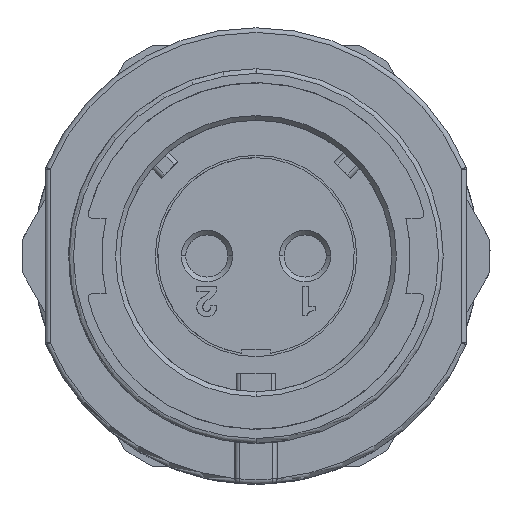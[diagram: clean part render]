
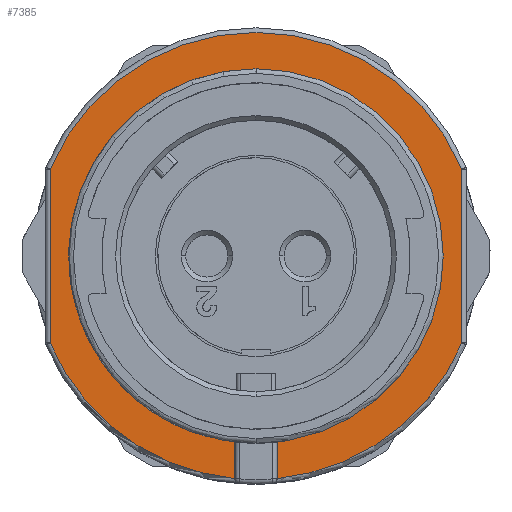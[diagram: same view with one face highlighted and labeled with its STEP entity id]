
A CAD part, left-side view. The second image highlights one B-rep face of the part: STEP entity #7385.
In plain terms, the highlighted planar face has unit normal (-1, 0, 0).
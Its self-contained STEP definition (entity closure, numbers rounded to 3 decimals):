
#874=DIRECTION('',(0.,0.,-1.));
#875=VECTOR('',#874,0.407);
#876=CARTESIAN_POINT('',(-6.3,7.156,-17.155));
#877=LINE('',#876,#875);
#1017=DIRECTION('',(0.,0.,1.));
#1018=VECTOR('',#1017,0.407);
#1019=CARTESIAN_POINT('',(-6.3,8.956,
-17.563));
#1020=LINE('',#1019,#1018);
#1189=DIRECTION('',(0.,0.,1.));
#1190=VECTOR('',#1189,7.42);
#1191=CARTESIAN_POINT('',(-6.3,-0.744,
-11.765));
#1192=LINE('',#1191,#1190);
#1208=CARTESIAN_POINT('',(-6.3,8.056,
-8.055));
#1209=DIRECTION('',(1.,0.,0.));
#1210=DIRECTION('',(0.,0.921,0.388));
#1211=AXIS2_PLACEMENT_3D('',#1208,#1209,#1210);
#1213=CARTESIAN_POINT('',(-6.3,8.056,
-8.055));
#1214=DIRECTION('',(1.,0.,0.));
#1215=DIRECTION('',(0.,-0.921,-0.388));
#1216=AXIS2_PLACEMENT_3D('',#1213,#1214,#1215);
#1218=DIRECTION('',(0.,1.,0.));
#1219=VECTOR('',#1218,1.8);
#1220=CARTESIAN_POINT('',(-6.3,7.156,
-17.155));
#1221=LINE('',#1220,#1219);
#1222=CARTESIAN_POINT('',(-6.3,8.056,
-8.055));
#1223=DIRECTION('',(1.,0.,0.));
#1224=DIRECTION('',(0.,0.094,-0.996));
#1225=AXIS2_PLACEMENT_3D('',#1222,#1223,#1224);
#1227=CARTESIAN_POINT('',(-6.3,8.056,
-8.055));
#1228=DIRECTION('',(-1.,0.,0.));
#1229=DIRECTION('',(0.,0.,1.));
#1230=AXIS2_PLACEMENT_3D('',#1227,#1228,#1229);
#1232=CARTESIAN_POINT('',(-6.3,8.056,
-8.055));
#1233=DIRECTION('',(-1.,0.,0.));
#1234=DIRECTION('',(0.,0.113,-0.994));
#1235=AXIS2_PLACEMENT_3D('',#1232,#1233,#1234);
#1237=CARTESIAN_POINT('',(-6.3,8.056,
-8.055));
#1238=DIRECTION('',(-1.,0.,0.));
#1239=DIRECTION('',(0.,0.,-1.));
#1240=AXIS2_PLACEMENT_3D('',#1237,#1238,#1239);
#1282=DIRECTION('',(0.,0.,-1.));
#1283=VECTOR('',#1282,7.42);
#1284=CARTESIAN_POINT('',(-6.3,16.856,
-4.346));
#1285=LINE('',#1284,#1283);
#5264=CARTESIAN_POINT('',(-6.3,16.856,
-11.765));
#5265=VERTEX_POINT('',#5264);
#5266=CARTESIAN_POINT('',(-6.3,8.956,
-17.563));
#5267=VERTEX_POINT('',#5266);
#5269=CARTESIAN_POINT('',(-6.3,16.856,
-4.346));
#5270=CARTESIAN_POINT('',(-6.3,-0.744,
-4.346));
#5271=VERTEX_POINT('',#5269);
#5272=VERTEX_POINT('',#5270);
#5273=CARTESIAN_POINT('',(-6.3,-0.744,
-11.765));
#5274=VERTEX_POINT('',#5273);
#5275=CARTESIAN_POINT('',(-6.3,7.156,
-17.563));
#5276=VERTEX_POINT('',#5275);
#5277=CARTESIAN_POINT('',(-6.3,7.156,
-17.155));
#5278=VERTEX_POINT('',#5277);
#5279=CARTESIAN_POINT('',(-6.3,8.956,
-17.155));
#5280=VERTEX_POINT('',#5279);
#5281=CARTESIAN_POINT('',(-6.3,8.056,
-0.055));
#5282=CARTESIAN_POINT('',(-6.3,8.956,
-16.005));
#5283=VERTEX_POINT('',#5281);
#5284=VERTEX_POINT('',#5282);
#5285=CARTESIAN_POINT('',(-6.3,8.056,
-16.055));
#5286=VERTEX_POINT('',#5285);
#7362=CARTESIAN_POINT('',(-6.3,8.056,
-8.055));
#7363=DIRECTION('',(-1.,0.,0.));
#7364=DIRECTION('',(0.,0.,1.));
#7365=AXIS2_PLACEMENT_3D('',#7362,#7363,#7364);
#7366=PLANE('',#7365);
#7368=ORIENTED_EDGE('',*,*,#7367,.T.);
#7369=ORIENTED_EDGE('',*,*,#7344,.F.);
#7370=ORIENTED_EDGE('',*,*,#6947,.T.);
#7371=ORIENTED_EDGE('',*,*,#6888,.F.);
#7373=ORIENTED_EDGE('',*,*,#7372,.T.);
#7374=ORIENTED_EDGE('',*,*,#7063,.F.);
#7375=ORIENTED_EDGE('',*,*,#7084,.T.);
#7377=ORIENTED_EDGE('',*,*,#7376,.F.);
#7378=EDGE_LOOP('',(#7368,#7369,#7370,#7371,#7373,#7374,#7375,#7377));
#7379=FACE_OUTER_BOUND('',#7378,.F.);
#7380=ORIENTED_EDGE('',*,*,#7047,.T.);
#7381=ORIENTED_EDGE('',*,*,#6865,.T.);
#7382=ORIENTED_EDGE('',*,*,#6863,.T.);
#7383=EDGE_LOOP('',(#7380,#7381,#7382));
#7384=FACE_BOUND('',#7383,.F.);
#1212=CIRCLE('',#1211,9.55);
#1217=CIRCLE('',#1216,9.55);
#1226=CIRCLE('',#1225,9.55);
#1231=CIRCLE('',#1230,8.);
#1236=CIRCLE('',#1235,8.);
#1241=CIRCLE('',#1240,8.);
#6863=EDGE_CURVE('',#5286,#5283,#1241,.T.);
#6865=EDGE_CURVE('',#5284,#5286,#1236,.T.);
#6888=EDGE_CURVE('',#5278,#5276,#877,.T.);
#6947=EDGE_CURVE('',#5274,#5276,#1217,.T.);
#7047=EDGE_CURVE('',#5283,#5284,#1231,.T.);
#7063=EDGE_CURVE('',#5267,#5280,#1020,.T.);
#7084=EDGE_CURVE('',#5267,#5265,#1226,.T.);
#7344=EDGE_CURVE('',#5274,#5272,#1192,.T.);
#7367=EDGE_CURVE('',#5271,#5272,#1212,.T.);
#7372=EDGE_CURVE('',#5278,#5280,#1221,.T.);
#7376=EDGE_CURVE('',#5271,#5265,#1285,.T.);
#7385=ADVANCED_FACE('',(#7379,#7384),#7366,.T.);
